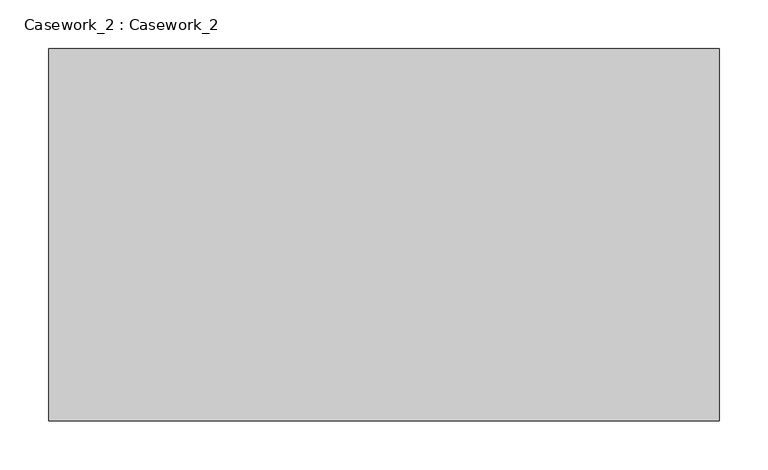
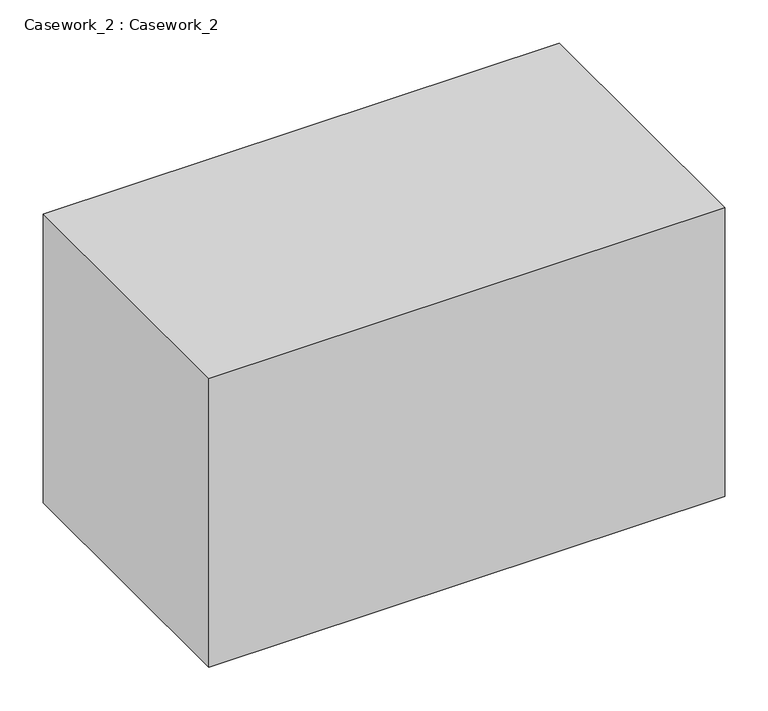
"""IFC4 building model written with IfcOpenShell, lengths in millimetres: furniture geometry, Casework_2 : Casework_2."""

from ifc_helpers import new_model, si_unit, origin, origin_with_axes, place, context, project, spatial, polyline, outline, extrude, source, transform, mapped, element, save


def casework_2_casework_2_ce933aa9(model_context):
    return source(origin(), model_context, "Body", "SweptSolid", [
        extrude(outline(polyline([(342.9, 0.0), (-342.9, 0.0), (-342.9, 381.0), (342.9, 381.0), (342.9, 0.0)])), origin_with_axes(), (0.0, 0.0, 1.0), 406.4),
    ])


if __name__ == "__main__":
    model = new_model("IFC4")
    model_context = context("Model", 3, world=origin())
    ifc_project = project(units=[si_unit("LENGTHUNIT", "METRE", prefix="MILLI")], contexts=[model_context])
    site = spatial("IfcSite", under=ifc_project)
    building = spatial("IfcBuilding", under=site)
    placement = place(None, origin())
    casework_2_casework_2_shape = casework_2_casework_2_ce933aa9(model_context)
    element("IfcFurniture", 1, ObjectType="Casework_2 : Casework_2", at=placement, inside=building, context=model_context, shape_type="MappedRepresentation", body=[
        mapped(casework_2_casework_2_shape, transform((0.0, 0.0, 0.0), x_axis=(1.0, 0.0, 0.0), y_axis=(0.0, 1.0, 0.0), z_axis=(0.0, 0.0, 1.0))),
    ])
    save(model, "model.ifc")
